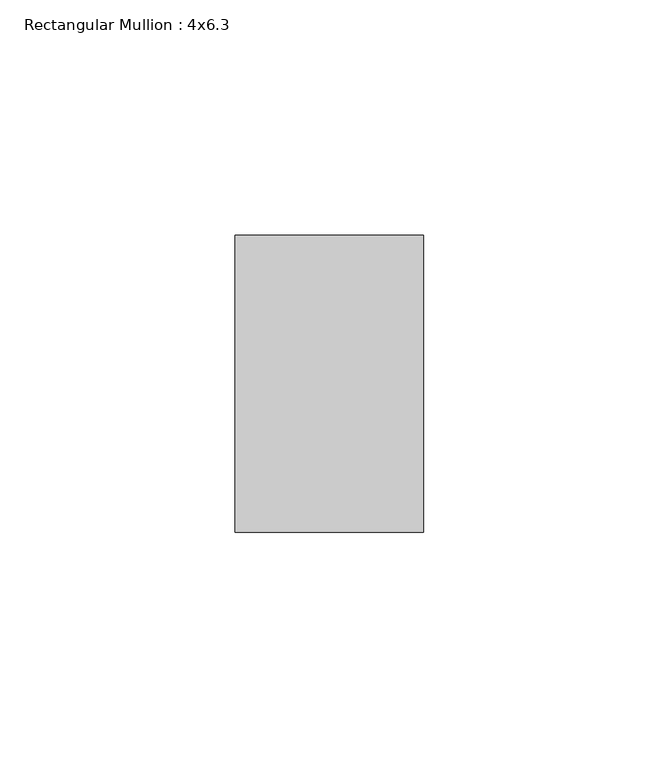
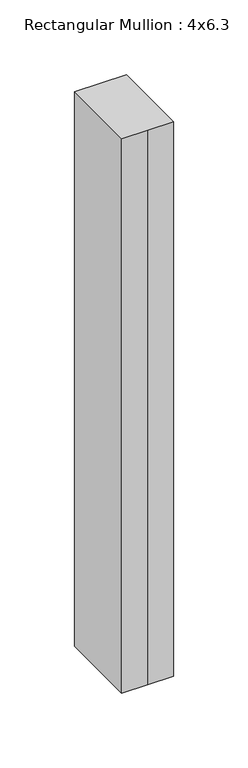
"""IFC4 building model written with IfcOpenShell, lengths in millimetres: member geometry, Rectangular Mullion : 4x6.3."""

from ifc_helpers import new_model, si_unit, frame, origin, place, context, project, spatial, polyline, outline, extrude, source, transform, mapped, element, save


def rectangular_mullion_4x6_3_f951e0b5(model_context):
    return source(origin(), model_context, "Body", "SweptSolid", [
        extrude(outline(polyline([(-20.0, 20.0), (-20.0, 83.0), (20.0, 83.0), (20.0, 20.0), (0.0, 20.0), (-20.0, 20.0)])), frame((0.0, 0.0, -452.9859884), z_axis=(0.0, 0.0, 1.0), x_axis=(1.0, 0.0, 0.0)), (0.0, 0.0, 1.0), 452.9859884),
    ])


if __name__ == "__main__":
    model = new_model("IFC4")
    model_context = context("Model", 3, world=origin())
    ifc_project = project(units=[si_unit("LENGTHUNIT", "METRE", prefix="MILLI")], contexts=[model_context])
    site = spatial("IfcSite", under=ifc_project)
    building = spatial("IfcBuilding", under=site)
    placement = place(None, origin())
    rectangular_mullion_4x6_3_shape = rectangular_mullion_4x6_3_f951e0b5(model_context)
    element("IfcMember", 1, ObjectType="Rectangular Mullion : 4x6.3", at=placement, inside=building, context=model_context, shape_type="MappedRepresentation", body=[
        mapped(rectangular_mullion_4x6_3_shape, transform((0.0, 0.0, 0.0), x_axis=(1.0, 0.0, 0.0), y_axis=(0.0, 1.0, 0.0), z_axis=(0.0, 0.0, 1.0))),
    ])
    save(model, "model.ifc")
